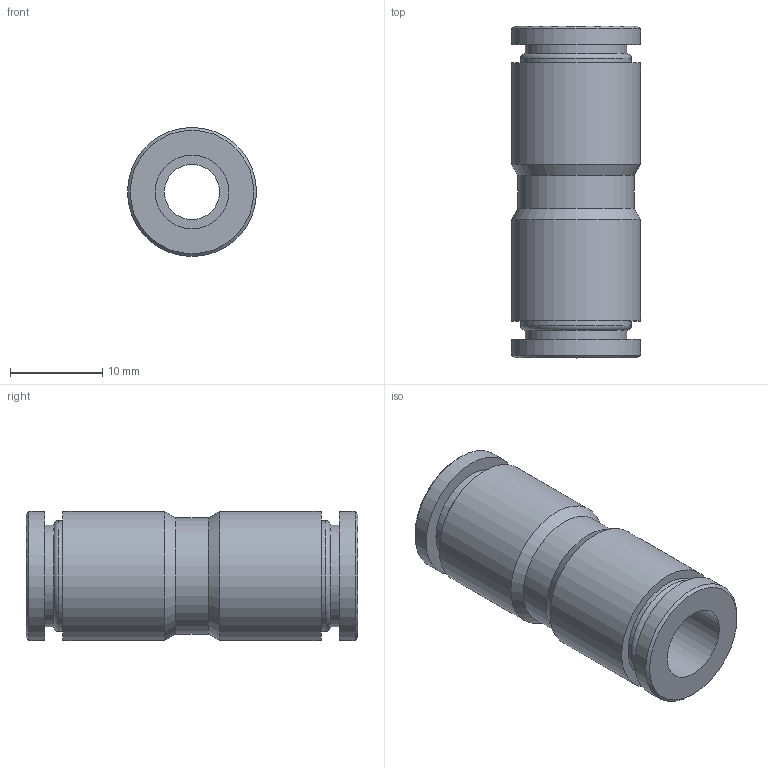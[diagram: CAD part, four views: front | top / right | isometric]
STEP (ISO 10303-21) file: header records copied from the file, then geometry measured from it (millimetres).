
FILE_DESCRIPTION(/* description */ (''),/* implementation_level */ '2;1');
FILE_NAME(/* name */ 'LXH10 0808 00.stp',/* time_stamp */ '2026-04-29T14:22:05+02:00',/* author */ ('freju'),/* organization */ (''),/* preprocessor_version */ 'ST-DEVELOPER v20.1',/* originating_system */ 'Autodesk Inventor 2026',/* authorisation */ '');
FILE_SCHEMA (('AUTOMOTIVE_DESIGN { 1 0 10303 214 3 1 1 }'));
Length unit declared in the file: millimetre
Products named in the file (1): LXH10 0808 00
Bounding box: 14 x 36 x 14 mm (x, y, z)
Volume: 3454.6 mm3; surface area: 2886.1 mm2
Topology: 1 solids, 1 shells, 26 faces, 50 edges, 32 vertices
Faces by surface type: cylinder 12, plane 8, cone 4, torus 2
Full cylindrical faces by diameter (mm): 6 x1, 8 x2, 11 x2, 12 x2, 12.6 x1, 14 x4
Entity records: 723 total; most frequent: DIRECTION 138, CARTESIAN_POINT 109, ORIENTED_EDGE 100, AXIS2_PLACEMENT_3D 61, EDGE_CURVE 50, EDGE_LOOP 34, CIRCLE 34, VERTEX_POINT 32
